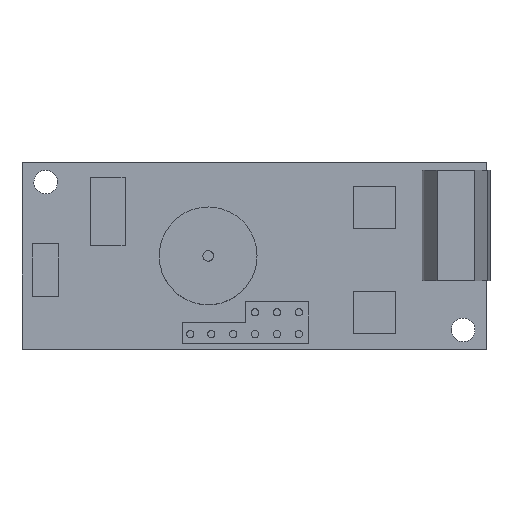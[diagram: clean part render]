
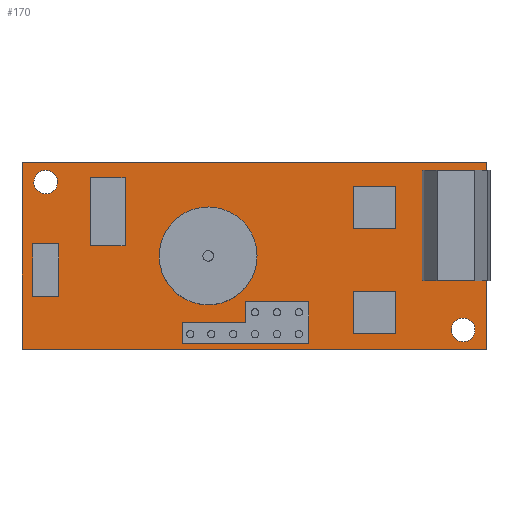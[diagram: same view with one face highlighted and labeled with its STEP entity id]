
A CAD part, top view. The second image highlights one B-rep face of the part: STEP entity #170.
In plain terms, the highlighted planar face has unit normal (0, 0, 1).
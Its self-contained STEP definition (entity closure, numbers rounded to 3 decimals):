
#13=FACE_BOUND('',#373,.T.);
#14=FACE_BOUND('',#374,.T.);
#18=(
BOUNDED_CURVE()
B_SPLINE_CURVE(2,(#1729,#1730,#1731,#1732,#1733),.UNSPECIFIED.,.F.,.F.)
B_SPLINE_CURVE_WITH_KNOTS((3,2,3),(123.8,125.567,127.334),
 .UNSPECIFIED.)
CURVE()
GEOMETRIC_REPRESENTATION_ITEM()
RATIONAL_B_SPLINE_CURVE((1.,0.707,1.,0.707,1.))
REPRESENTATION_ITEM('')
);
#21=(
BOUNDED_CURVE()
B_SPLINE_CURVE(2,(#1741,#1742,#1743,#1744,#1745),.UNSPECIFIED.,.F.,.F.)
B_SPLINE_CURVE_WITH_KNOTS((3,2,3),(130.869,132.636,134.403),
 .UNSPECIFIED.)
CURVE()
GEOMETRIC_REPRESENTATION_ITEM()
RATIONAL_B_SPLINE_CURVE((1.,0.707,1.,0.707,1.))
REPRESENTATION_ITEM('')
);
#24=(
BOUNDED_CURVE()
B_SPLINE_CURVE(2,(#1753,#1754,#1755,#1756,#1757),.UNSPECIFIED.,.F.,.F.)
B_SPLINE_CURVE_WITH_KNOTS((3,2,3),(127.334,129.101,130.869),
 .UNSPECIFIED.)
CURVE()
GEOMETRIC_REPRESENTATION_ITEM()
RATIONAL_B_SPLINE_CURVE((1.,0.707,1.,0.707,1.))
REPRESENTATION_ITEM('')
);
#27=(
BOUNDED_CURVE()
B_SPLINE_CURVE(2,(#1765,#1766,#1767,#1768,#1769),.UNSPECIFIED.,.F.,.F.)
B_SPLINE_CURVE_WITH_KNOTS((3,2,3),(134.403,136.17,137.937),
 .UNSPECIFIED.)
CURVE()
GEOMETRIC_REPRESENTATION_ITEM()
RATIONAL_B_SPLINE_CURVE((1.,0.707,1.,0.707,1.))
REPRESENTATION_ITEM('')
);
#170=ADVANCED_FACE('',(#270,#13,#14),#1277,.T.);
#270=FACE_OUTER_BOUND('',#372,.T.);
#372=EDGE_LOOP('',(#518,#519,#520,#521));
#373=EDGE_LOOP('',(#522,#523));
#374=EDGE_LOOP('',(#524,#525));
#518=ORIENTED_EDGE('',*,*,#854,.T.);
#519=ORIENTED_EDGE('',*,*,#858,.T.);
#520=ORIENTED_EDGE('',*,*,#861,.T.);
#521=ORIENTED_EDGE('',*,*,#863,.T.);
#522=ORIENTED_EDGE('',*,*,#866,.T.);
#523=ORIENTED_EDGE('',*,*,#872,.T.);
#524=ORIENTED_EDGE('',*,*,#869,.T.);
#525=ORIENTED_EDGE('',*,*,#875,.T.);
#854=EDGE_CURVE('',#1151,#1150,#1043,.T.);
#858=EDGE_CURVE('',#1150,#1153,#1047,.T.);
#861=EDGE_CURVE('',#1153,#1155,#1050,.T.);
#863=EDGE_CURVE('',#1155,#1151,#1052,.T.);
#866=EDGE_CURVE('',#1157,#1161,#18,.T.);
#869=EDGE_CURVE('',#1159,#1163,#21,.T.);
#872=EDGE_CURVE('',#1161,#1157,#24,.T.);
#875=EDGE_CURVE('',#1163,#1159,#27,.T.);
#1043=B_SPLINE_CURVE_WITH_KNOTS('',1,(#1702,#1703),.UNSPECIFIED.,.F.,.F.,
(2,2),(0.,44.2),.UNSPECIFIED.);
#1047=B_SPLINE_CURVE_WITH_KNOTS('',1,(#1710,#1711),.UNSPECIFIED.,.F.,.F.,
(2,2),(44.2,61.9),.UNSPECIFIED.);
#1050=B_SPLINE_CURVE_WITH_KNOTS('',1,(#1716,#1717),.UNSPECIFIED.,.F.,.F.,
(2,2),(61.9,106.1),.UNSPECIFIED.);
#1052=B_SPLINE_CURVE_WITH_KNOTS('',1,(#1720,#1721),.UNSPECIFIED.,.F.,.F.,
(2,2),(106.1,123.8),.UNSPECIFIED.);
#1150=VERTEX_POINT('',#1684);
#1151=VERTEX_POINT('',#1685);
#1153=VERTEX_POINT('',#1687);
#1155=VERTEX_POINT('',#1689);
#1157=VERTEX_POINT('',#1691);
#1159=VERTEX_POINT('',#1693);
#1161=VERTEX_POINT('',#1695);
#1163=VERTEX_POINT('',#1697);
#1277=PLANE('',#1441);
#1441=AXIS2_PLACEMENT_3D('',#1679,#1544,$);
#1544=DIRECTION('',(0.,0.,1.));
#1679=CARTESIAN_POINT('',(-85.,0.,1.6));
#1684=CARTESIAN_POINT('',(-40.8,0.,1.6));
#1685=CARTESIAN_POINT('',(-85.,0.,1.6));
#1687=CARTESIAN_POINT('',(-40.8,17.7,1.6));
#1689=CARTESIAN_POINT('',(-85.,17.7,1.6));
#1691=CARTESIAN_POINT('',(-81.62,15.875,1.6));
#1693=CARTESIAN_POINT('',(-44.18,1.825,1.6));
#1695=CARTESIAN_POINT('',(-83.87,15.875,1.6));
#1697=CARTESIAN_POINT('',(-41.93,1.825,1.6));
#1702=CARTESIAN_POINT('',(-85.,0.,1.6));
#1703=CARTESIAN_POINT('',(-40.8,0.,1.6));
#1710=CARTESIAN_POINT('',(-40.8,0.,1.6));
#1711=CARTESIAN_POINT('',(-40.8,17.7,1.6));
#1716=CARTESIAN_POINT('',(-40.8,17.7,1.6));
#1717=CARTESIAN_POINT('',(-85.,17.7,1.6));
#1720=CARTESIAN_POINT('',(-85.,17.7,1.6));
#1721=CARTESIAN_POINT('',(-85.,0.,1.6));
#1729=CARTESIAN_POINT('',(-81.62,15.875,1.6));
#1730=CARTESIAN_POINT('',(-81.62,14.75,1.6));
#1731=CARTESIAN_POINT('',(-82.745,14.75,1.6));
#1732=CARTESIAN_POINT('',(-83.87,14.75,1.6));
#1733=CARTESIAN_POINT('',(-83.87,15.875,1.6));
#1741=CARTESIAN_POINT('',(-44.18,1.825,1.6));
#1742=CARTESIAN_POINT('',(-44.18,2.95,1.6));
#1743=CARTESIAN_POINT('',(-43.055,2.95,1.6));
#1744=CARTESIAN_POINT('',(-41.93,2.95,1.6));
#1745=CARTESIAN_POINT('',(-41.93,1.825,1.6));
#1753=CARTESIAN_POINT('',(-83.87,15.875,1.6));
#1754=CARTESIAN_POINT('',(-83.87,17.,1.6));
#1755=CARTESIAN_POINT('',(-82.745,17.,1.6));
#1756=CARTESIAN_POINT('',(-81.62,17.,1.6));
#1757=CARTESIAN_POINT('',(-81.62,15.875,1.6));
#1765=CARTESIAN_POINT('',(-41.93,1.825,1.6));
#1766=CARTESIAN_POINT('',(-41.93,0.7,1.6));
#1767=CARTESIAN_POINT('',(-43.055,0.7,1.6));
#1768=CARTESIAN_POINT('',(-44.18,0.7,1.6));
#1769=CARTESIAN_POINT('',(-44.18,1.825,1.6));
